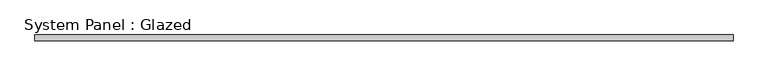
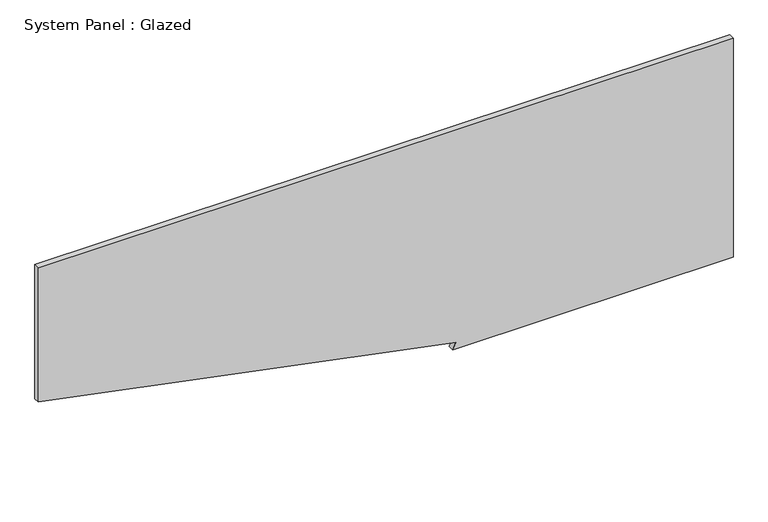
"""IFC4 building model written with IfcOpenShell, lengths in millimetres: plate geometry, System Panel : Glazed."""

from ifc_helpers import new_model, si_unit, frame, origin, place, context, project, spatial, polyline, outline, extrude, source, transform, mapped, element, save


def system_panel_glazed_d7fb52fa(model_context):
    return source(origin(), model_context, "Body", "SweptSolid", [
        extrude(outline(polyline([(0.0, 291.0371407), (0.0, 1504.95), (1003.3, 1504.95), (1003.3, -1504.95), (389.456857, -1504.95), (30.5350085, 303.3994913), (0.0, 291.0371407)])), frame((0.0, 19.05, 0.0), z_axis=(0.0, 1.0, 0.0), x_axis=(0.0, 0.0, 1.0)), (0.0, 0.0, 1.0), 25.4),
    ])


if __name__ == "__main__":
    model = new_model("IFC4")
    model_context = context("Model", 3, world=origin())
    ifc_project = project(units=[si_unit("LENGTHUNIT", "METRE", prefix="MILLI")], contexts=[model_context])
    site = spatial("IfcSite", under=ifc_project)
    building = spatial("IfcBuilding", under=site)
    placement = place(None, origin())
    system_panel_glazed_shape = system_panel_glazed_d7fb52fa(model_context)
    element("IfcPlate", 1, ObjectType="System Panel : Glazed", at=placement, inside=building, context=model_context, shape_type="MappedRepresentation", body=[
        mapped(system_panel_glazed_shape, transform((0.0, 0.0, 0.0), x_axis=(1.0, 0.0, 0.0), y_axis=(0.0, 1.0, 0.0), z_axis=(0.0, 0.0, 1.0))),
    ])
    save(model, "model.ifc")
